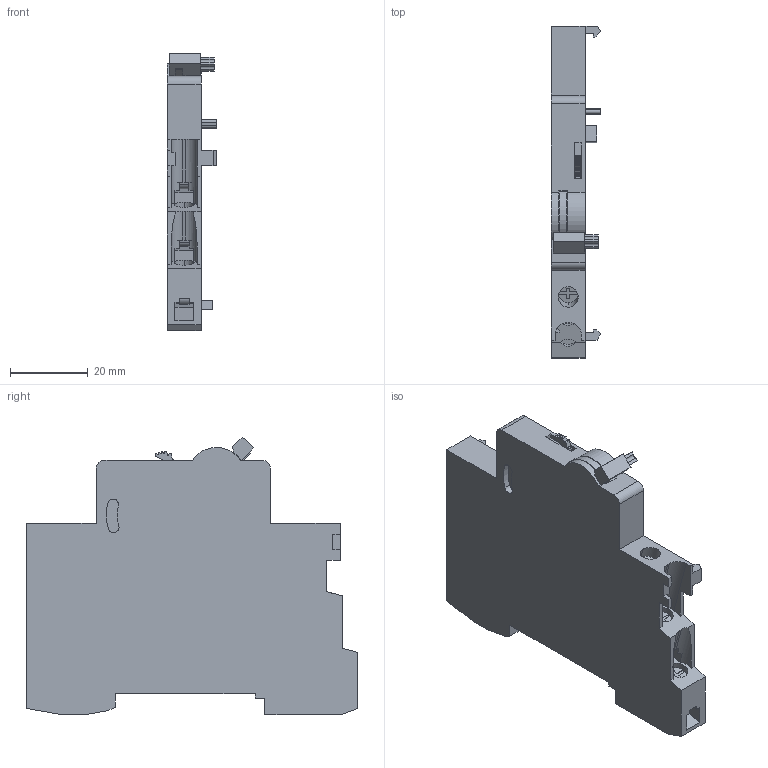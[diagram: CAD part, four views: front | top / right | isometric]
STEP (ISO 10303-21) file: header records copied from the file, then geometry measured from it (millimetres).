
FILE_DESCRIPTION((''),'2;1');
FILE_NAME('1637756475981_ASM','2021-11-24T17:51:34',('SESA540900'),('Schneider-Electric'),'CREO PARAMETRIC BY PTC INC, 2019471','CREO PARAMETRIC BY PTC INC, 2019471','');
FILE_SCHEMA(('AP242_MANAGED_MODEL_BASED_3D_ENGINEERING_MIM_LF { 1 0 10303 442 1 1 4 }'));
Length unit declared in the file: millimetre
Products named in the file (4): EMPTYNODE_1637756476035_ASM; M9A26914-SD-3D; M9A26914-3D_ASM; 1637756475981_ASM
Assembly tree (3 placements, depth 3):
  1637756475981_ASM
    EMPTYNODE_1637756476035_ASM
    M9A26914-3D_ASM
      M9A26914-SD-3D
Bounding box: 12.7 x 85.32 x 71.5 mm (x, y, z)
Volume: 37051.9 mm3; surface area: 13465.1 mm2
Topology: 1 solids, 1 shells, 265 faces, 762 edges, 508 vertices
Faces by surface type: plane 212, cylinder 52, extrusion 1
Entity records: 12085 total; most frequent: CARTESIAN_POINT 1664, ORIENTED_EDGE 1524, DIRECTION 1408, PRESENTATION_STYLE_ASSIGNMENT 821, STYLED_ITEM 766, CURVE_STYLE 765, EDGE_CURVE 762, VECTOR 628
